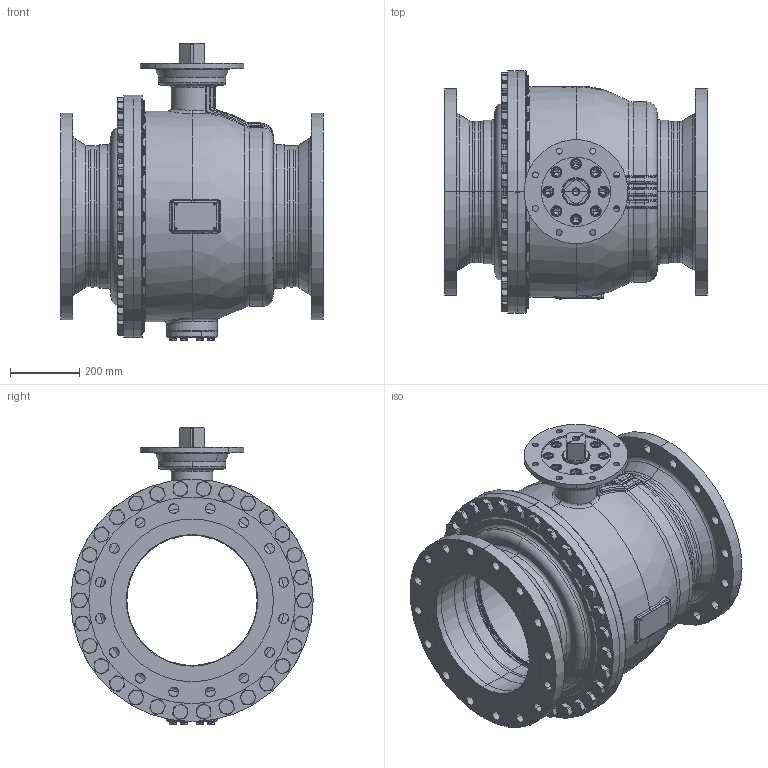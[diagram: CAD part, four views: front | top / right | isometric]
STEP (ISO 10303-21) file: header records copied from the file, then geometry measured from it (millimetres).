
FILE_DESCRIPTION((''),'2;1');
FILE_NAME('KHI-F_400_CL150-F25-4_SW0001','2026-02-05T16:18:46',('fischerkl'),('KLINGER'),'CREO PARAMETRIC BY PTC INC, 2023014','CREO PARAMETRIC BY PTC INC, 2023014','');
FILE_SCHEMA(('CONFIG_CONTROL_DESIGN'));
Products named in the file (1): KHI-F_400_CL150-F25-4_SW0001
Bounding box: 762 x 700 x 858.3 mm (x, y, z)
Volume: 56242205.3 mm3; surface area: 6862628.2 mm2
Topology: 1 solids, 4 shells, 3548 faces, 8934 edges, 5577 vertices
Faces by surface type: plane 1754, cylinder 849, cone 508, torus 307, bspline 99, sphere 31
Entity records: 151905 total; most frequent: CARTESIAN_POINT 67490, ORIENTED_EDGE 17816, DIRECTION 17489, EDGE_CURVE 8908, AXIS2_PLACEMENT_3D 6715, VERTEX_POINT 5577, VECTOR 4059, LINE 4059
